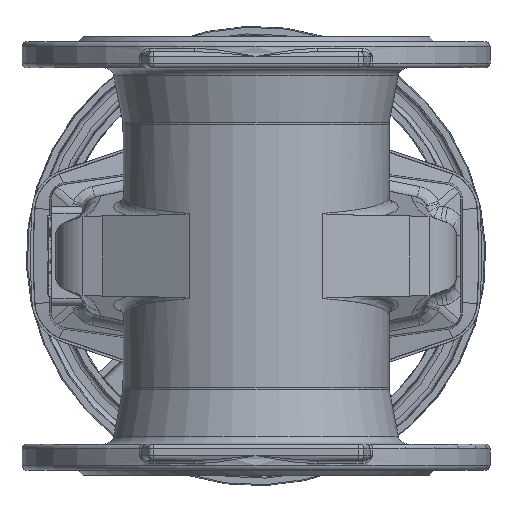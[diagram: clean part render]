
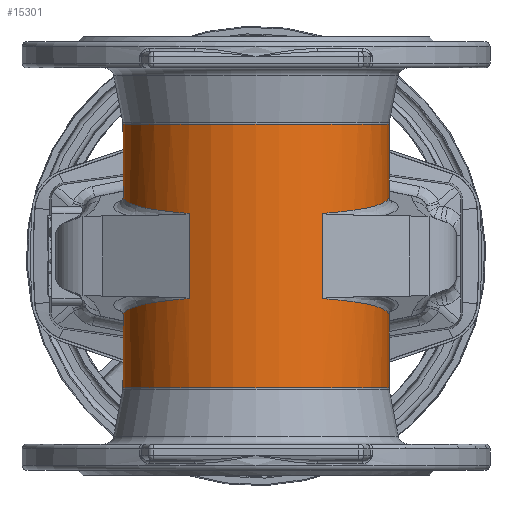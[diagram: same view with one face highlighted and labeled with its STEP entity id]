
A CAD part, front view. The second image highlights one B-rep face of the part: STEP entity #15301.
In plain terms, the highlighted cylindrical face has radius 81 mm (diameter 162 mm), a full revolution.
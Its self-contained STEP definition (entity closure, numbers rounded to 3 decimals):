
#1643 = VERTEX_POINT ( 'NONE', #5268 ) ;
#1644 = VERTEX_POINT ( 'NONE', #5269 ) ;
#3557 = ORIENTED_EDGE ( 'NONE', *, *, #11038, .F. ) ;
#3558 = ORIENTED_EDGE ( 'NONE', *, *, #11062, .T. ) ;
#3559 = ORIENTED_EDGE ( 'NONE', *, *, #10998, .T. ) ;
#3560 = ORIENTED_EDGE ( 'NONE', *, *, #10905, .F. ) ;
#3561 = ORIENTED_EDGE ( 'NONE', *, *, #10901, .F. ) ;
#3562 = ORIENTED_EDGE ( 'NONE', *, *, #10900, .T. ) ;
#3563 = ORIENTED_EDGE ( 'NONE', *, *, #10902, .F. ) ;
#3564 = ORIENTED_EDGE ( 'NONE', *, *, #11049, .T. ) ;
#5268 = CARTESIAN_POINT ( 'NONE',  ( 81., 0., -80.205 ) ) ;
#5269 = CARTESIAN_POINT ( 'NONE',  ( 81., 0., 80.205 ) ) ;
#10900 = EDGE_CURVE ( 'NONE', #21470, #21679, #28524, .T. ) ;
#10901 = EDGE_CURVE ( 'NONE', #21211, #21679, #30537, .T. ) ;
#10902 = EDGE_CURVE ( 'NONE', #21470, #21279, #28525, .T. ) ;
#10905 = EDGE_CURVE ( 'NONE', #21599, #21211, #28528, .T. ) ;
#10998 = EDGE_CURVE ( 'NONE', #21599, #21241, #28539, .T. ) ;
#11038 = EDGE_CURVE ( 'NONE', #1643, #1643, #19295, .T. ) ;
#11049 = EDGE_CURVE ( 'NONE', #21241, #21279, #19309, .T. ) ;
#11062 = EDGE_CURVE ( 'NONE', #1644, #1644, #19325, .T. ) ;
#15301 = ADVANCED_FACE ( 'NONE', ( #19558, #19555, #19548 ), #19561, .T. ) ;
#19189 = AXIS2_PLACEMENT_3D ( 'NONE', #28264, #28265, #28266 ) ;
#19195 = AXIS2_PLACEMENT_3D ( 'NONE', #28357, #28358, #28359 ) ;
#19295 = CIRCLE ( 'NONE', #19189, 81. ) ;
#19309 = LINE ( 'NONE', #28291, #19311 ) ;
#19311 = VECTOR ( 'NONE', #28284, 1000. ) ;
#19325 = CIRCLE ( 'NONE', #19195, 81. ) ;
#19548 = FACE_OUTER_BOUND ( 'NONE', #30753, .T. ) ;
#19555 = FACE_OUTER_BOUND ( 'NONE', #30752, .T. ) ;
#19558 = FACE_BOUND ( 'NONE', #30750, .T. ) ;
#19561 = CYLINDRICAL_SURFACE ( 'NONE', #20401, 81. ) ;
#20401 = AXIS2_PLACEMENT_3D ( 'NONE', #22199, #22241, #22240 ) ;
#21211 = VERTEX_POINT ( 'NONE', #32592 ) ;
#21241 = VERTEX_POINT ( 'NONE', #32600 ) ;
#21279 = VERTEX_POINT ( 'NONE', #32621 ) ;
#21470 = VERTEX_POINT ( 'NONE', #32772 ) ;
#21599 = VERTEX_POINT ( 'NONE', #32862 ) ;
#21679 = VERTEX_POINT ( 'NONE', #32909 ) ;
#22199 = CARTESIAN_POINT ( 'NONE',  ( 0., 0., 0. ) ) ;
#22240 = DIRECTION ( 'NONE',  ( 1., 0., 0. ) ) ;
#22241 = DIRECTION ( 'NONE',  ( 0., 0., 1. ) ) ;
#27819 = CARTESIAN_POINT ( 'NONE',  ( 129.794, -18.594, -32.066 ) ) ;
#27820 = CARTESIAN_POINT ( 'NONE',  ( 103.108, 81., -47.605 ) ) ;
#27824 = CARTESIAN_POINT ( 'NONE',  ( 0., 81., -49.557 ) ) ;
#27825 = CARTESIAN_POINT ( 'NONE',  ( 40.5, -70.148, 133.5 ) ) ;
#27826 = CARTESIAN_POINT ( 'NONE',  ( 40.5, -70.148, -25.974 ) ) ;
#27827 = DIRECTION ( 'NONE',  ( 0., 0., -1. ) ) ;
#27828 = CARTESIAN_POINT ( 'NONE',  ( -103.108, 81., -47.605 ) ) ;
#27829 = CARTESIAN_POINT ( 'NONE',  ( 0., 81., -49.557 ) ) ;
#27832 = CARTESIAN_POINT ( 'NONE',  ( -129.794, -18.594, -32.066 ) ) ;
#27833 = CARTESIAN_POINT ( 'NONE',  ( -40.5, -70.148, -25.974 ) ) ;
#27835 = CARTESIAN_POINT ( 'NONE',  ( 103.108, 81., 47.605 ) ) ;
#27850 = CARTESIAN_POINT ( 'NONE',  ( 129.794, -18.594, 32.066 ) ) ;
#27854 = CARTESIAN_POINT ( 'NONE',  ( 0., 81., 49.557 ) ) ;
#27855 = CARTESIAN_POINT ( 'NONE',  ( 40.5, -70.148, 25.974 ) ) ;
#28120 = CARTESIAN_POINT ( 'NONE',  ( 0., 81., 49.557 ) ) ;
#28121 = CARTESIAN_POINT ( 'NONE',  ( -103.108, 81., 47.605 ) ) ;
#28125 = CARTESIAN_POINT ( 'NONE',  ( -129.794, -18.594, 32.066 ) ) ;
#28126 = CARTESIAN_POINT ( 'NONE',  ( -40.5, -70.148, 25.974 ) ) ;
#28264 = CARTESIAN_POINT ( 'NONE',  ( 0., 0., -80.205 ) ) ;
#28265 = DIRECTION ( 'NONE',  ( 0., 0., -1. ) ) ;
#28266 = DIRECTION ( 'NONE',  ( 1., 0., 0. ) ) ;
#28284 = DIRECTION ( 'NONE',  ( 0., 0., -1. ) ) ;
#28291 = CARTESIAN_POINT ( 'NONE',  ( -40.5, -70.148, 133.5 ) ) ;
#28357 = CARTESIAN_POINT ( 'NONE',  ( 0., 0., 80.205 ) ) ;
#28358 = DIRECTION ( 'NONE',  ( 0., 0., -1. ) ) ;
#28359 = DIRECTION ( 'NONE',  ( 1., 0., 0. ) ) ;
#28524 =( BOUNDED_CURVE ( )  B_SPLINE_CURVE ( 3, ( #27824, #27820, #27819, #27826 ),
 .UNSPECIFIED., .F., .T. ) 
 B_SPLINE_CURVE_WITH_KNOTS ( ( 4, 4 ),
 ( 0.125, 2.743 ),
 .UNSPECIFIED. ) 
 CURVE ( )  GEOMETRIC_REPRESENTATION_ITEM ( )  RATIONAL_B_SPLINE_CURVE ( ( 1., 0.506, 0.506, 1. ) ) 
 REPRESENTATION_ITEM ( '' )  );
#28525 =( BOUNDED_CURVE ( )  B_SPLINE_CURVE ( 3, ( #27829, #27828, #27832, #27833 ),
 .UNSPECIFIED., .F., .T. ) 
 B_SPLINE_CURVE_WITH_KNOTS ( ( 4, 4 ),
 ( 0.125, 2.743 ),
 .UNSPECIFIED. ) 
 CURVE ( )  GEOMETRIC_REPRESENTATION_ITEM ( )  RATIONAL_B_SPLINE_CURVE ( ( 1., 0.506, 0.506, 1. ) ) 
 REPRESENTATION_ITEM ( '' )  );
#28528 =( BOUNDED_CURVE ( )  B_SPLINE_CURVE ( 3, ( #27854, #27835, #27850, #27855 ),
 .UNSPECIFIED., .F., .T. ) 
 B_SPLINE_CURVE_WITH_KNOTS ( ( 4, 4 ),
 ( 0.125, 2.743 ),
 .UNSPECIFIED. ) 
 CURVE ( )  GEOMETRIC_REPRESENTATION_ITEM ( )  RATIONAL_B_SPLINE_CURVE ( ( 1., 0.506, 0.506, 1. ) ) 
 REPRESENTATION_ITEM ( '' )  );
#28539 =( BOUNDED_CURVE ( )  B_SPLINE_CURVE ( 3, ( #28120, #28121, #28125, #28126 ),
 .UNSPECIFIED., .F., .T. ) 
 B_SPLINE_CURVE_WITH_KNOTS ( ( 4, 4 ),
 ( 0.125, 2.743 ),
 .UNSPECIFIED. ) 
 CURVE ( )  GEOMETRIC_REPRESENTATION_ITEM ( )  RATIONAL_B_SPLINE_CURVE ( ( 1., 0.506, 0.506, 1. ) ) 
 REPRESENTATION_ITEM ( '' )  );
#30535 = VECTOR ( 'NONE', #27827, 1000. ) ;
#30537 = LINE ( 'NONE', #27825, #30535 ) ;
#30750 = EDGE_LOOP ( 'NONE', ( #3564, #3563, #3562, #3561, #3560, #3559 ) ) ;
#30752 = EDGE_LOOP ( 'NONE', ( #3558 ) ) ;
#30753 = EDGE_LOOP ( 'NONE', ( #3557 ) ) ;
#32592 = CARTESIAN_POINT ( 'NONE',  ( 40.5, -70.148, 25.974 ) ) ;
#32600 = CARTESIAN_POINT ( 'NONE',  ( -40.5, -70.148, 25.974 ) ) ;
#32621 = CARTESIAN_POINT ( 'NONE',  ( -40.5, -70.148, -25.974 ) ) ;
#32772 = CARTESIAN_POINT ( 'NONE',  ( 0., 81., -49.557 ) ) ;
#32862 = CARTESIAN_POINT ( 'NONE',  ( 0., 81., 49.557 ) ) ;
#32909 = CARTESIAN_POINT ( 'NONE',  ( 40.5, -70.148, -25.974 ) ) ;
